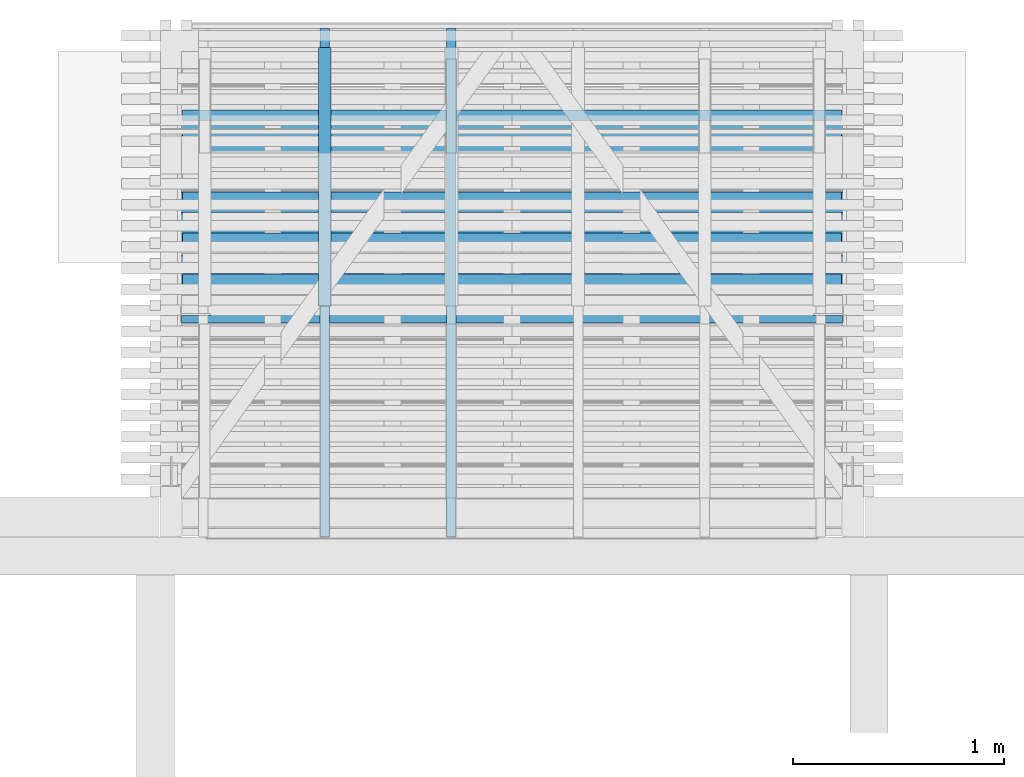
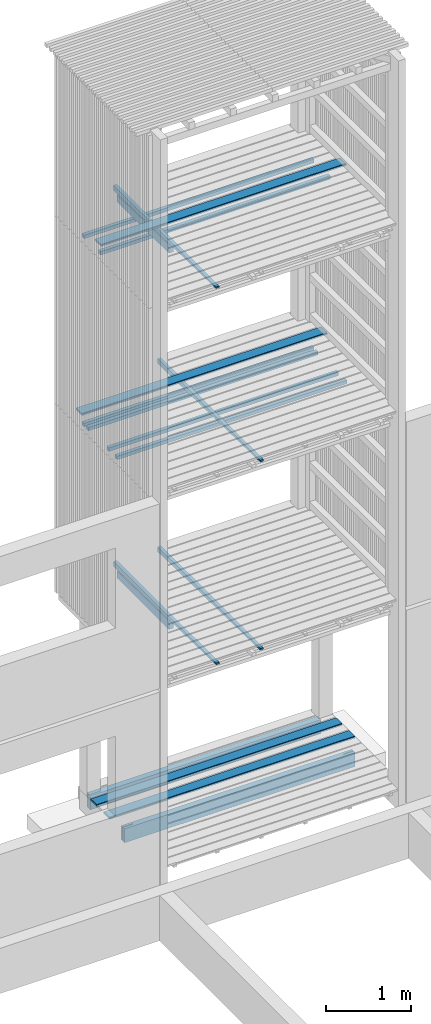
# One storey, part 48 of 182: 18 beams.
"""IFC2X3 building model written with IfcOpenShell, lengths in metres."""

from ifc_helpers import new_model, si_unit, frame, origin, place, context, project, spatial, faceted_brep, element, save


model = new_model("IFC2X3")

# Units and contexts
model_context = context("Model", 3, precision=1e-06, world=origin())
ifc_project = project(units=[si_unit("LENGTHUNIT", "METRE"), si_unit("PLANEANGLEUNIT", "RADIAN")], contexts=[model_context])

# Site, building, storey
site = spatial("IfcSite", under=ifc_project, CompositionType="ELEMENT")
building = spatial("IfcBuilding", under=site, CompositionType="ELEMENT")
storey = spatial("IfcBuildingStorey", under=building, Name="vs", CompositionType="ELEMENT", Elevation=-0.85)

# Beams
placement = place(None, origin())
beam_1_placement = place(placement, frame((16.549197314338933, 12.080494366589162, 7.86739999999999), z_axis=(0.0, 0.0, 1.0), x_axis=(-1.0, 0.0, 0.0)))
element("IfcBeam", 1, at=beam_1_placement, inside=storey, Name="Bardage", context=model_context, shape_type="Brep", body=[
    faceted_brep([(3.120000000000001, 0.024999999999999, -0.024999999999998), (3.120000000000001, 0.024999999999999, 0.025000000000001), (3.120000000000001, -0.024999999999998, 0.025000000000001), (3.120000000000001, -0.024999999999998, -0.024999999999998), (-3e-15, -0.025000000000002, -0.024999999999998), (-3e-15, -0.025000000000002, 0.025000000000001), (-3e-15, 0.024999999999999, 0.025000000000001), (-3e-15, 0.024999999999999, -0.024999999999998), (-3e-15, 0.024999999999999, -0.024999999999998), (-3e-15, 0.024999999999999, 0.025000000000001), (3.120000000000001, 0.024999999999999, 0.025000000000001), (3.120000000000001, 0.024999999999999, -0.024999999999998), (-3e-15, 0.024999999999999, 0.025000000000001), (-3e-15, -0.025000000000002, 0.025000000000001), (3.120000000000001, -0.024999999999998, 0.025000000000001), (3.120000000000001, 0.024999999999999, 0.025000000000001), (-3e-15, -0.025000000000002, 0.025000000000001), (-3e-15, -0.025000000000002, -0.024999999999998), (3.120000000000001, -0.024999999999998, -0.024999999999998), (3.120000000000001, -0.024999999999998, 0.025000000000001), (-3e-15, -0.025000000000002, -0.024999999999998), (-3e-15, 0.024999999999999, -0.024999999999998), (3.120000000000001, 0.024999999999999, -0.024999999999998), (3.120000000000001, -0.024999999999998, -0.024999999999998)], [[[0, 1, 2, 3]], [[4, 5, 6, 7]], [[8, 9, 10, 11]], [[12, 13, 14, 15]], [[16, 17, 18, 19]], [[20, 21, 22, 23]]]),
])
beam_2_placement = place(placement, frame((16.55419731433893, 11.5250776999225, -0.143899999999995), z_axis=(0.0, 0.0, 1.0), x_axis=(-1.0, -2e-15, 0.0)))
element("IfcBeam", 2, at=beam_2_placement, inside=storey, Name="Sommier", context=model_context, shape_type="Brep", body=[
    faceted_brep([(0.137000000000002, -0.003999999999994, 0.1), (0.137000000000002, -0.003999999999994, -0.1), (1e-15, -0.003999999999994, -0.1), (1e-15, -0.003999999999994, 0.1), (0.137000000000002, 0.004000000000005, -0.1), (0.137000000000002, -0.003999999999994, -0.1), (0.137000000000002, -0.003999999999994, 0.1), (0.137000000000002, 0.004000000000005, 0.1), (0.137000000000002, 0.004000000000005, -0.1), (0.137000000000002, 0.004000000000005, 0.1), (1e-15, 0.004000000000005, 0.1), (1e-15, 0.004000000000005, -0.1), (1e-15, -0.003999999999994, 0.1), (1e-15, -0.003999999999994, -0.1), (1e-15, -0.039999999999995, -0.1), (1e-15, -0.039999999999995, 0.1), (1e-15, 0.040000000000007, 0.1), (1e-15, 0.040000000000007, -0.1), (1e-15, 0.004000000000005, -0.1), (1e-15, 0.004000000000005, 0.1), (3.129999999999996, 0.004000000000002, 0.1), (2.992999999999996, 0.004000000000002, 0.1), (2.992999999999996, 0.004000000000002, -0.1), (3.129999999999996, 0.004000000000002, -0.1), (2.992999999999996, -0.004000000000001, 0.1), (2.992999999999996, -0.004000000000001, -0.1), (2.992999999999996, 0.004000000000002, -0.1), (2.992999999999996, 0.004000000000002, 0.1), (3.129999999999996, -0.004000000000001, -0.1), (2.992999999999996, -0.004000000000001, -0.1), (2.992999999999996, -0.004000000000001, 0.1), (3.129999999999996, -0.004000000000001, 0.1), (3.129999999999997, 0.04, 0.1), (3.129999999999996, 0.004000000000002, 0.1), (3.129999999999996, 0.004000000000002, -0.1), (3.129999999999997, 0.04, -0.1), (3.129999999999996, -0.040000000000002, 0.1), (3.129999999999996, -0.040000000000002, -0.1), (3.129999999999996, -0.004000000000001, -0.1), (3.129999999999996, -0.004000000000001, 0.1), (1e-15, -0.039999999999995, -0.1), (1e-15, -0.003999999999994, -0.1), (0.137000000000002, -0.003999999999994, -0.1), (0.137000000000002, 0.004000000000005, -0.1), (1e-15, 0.004000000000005, -0.1), (1e-15, 0.040000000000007, -0.1), (3.129999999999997, 0.04, -0.1), (3.129999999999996, 0.004000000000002, -0.1), (2.992999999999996, 0.004000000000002, -0.1), (2.992999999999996, -0.004000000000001, -0.1), (3.129999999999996, -0.004000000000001, -0.1), (3.129999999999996, -0.040000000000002, -0.1), (2.992999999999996, 0.004000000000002, 0.1), (3.129999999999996, 0.004000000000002, 0.1), (3.129999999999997, 0.04, 0.1), (1e-15, 0.040000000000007, 0.1), (1e-15, 0.004000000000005, 0.1), (0.137000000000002, 0.004000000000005, 0.1), (0.137000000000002, -0.003999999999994, 0.1), (1e-15, -0.003999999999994, 0.1), (1e-15, -0.039999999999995, 0.1), (3.129999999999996, -0.040000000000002, 0.1), (3.129999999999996, -0.004000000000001, 0.1), (2.992999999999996, -0.004000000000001, 0.1), (1e-15, 0.040000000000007, 0.1), (3.129999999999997, 0.04, 0.1), (3.129999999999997, 0.04, -0.1), (1e-15, 0.040000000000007, -0.1), (1e-15, -0.039999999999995, -0.1), (3.129999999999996, -0.040000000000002, -0.1), (3.129999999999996, -0.040000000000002, 0.1), (1e-15, -0.039999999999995, 0.1)], [[[0, 1, 2, 3]], [[4, 5, 6, 7]], [[8, 9, 10, 11]], [[12, 13, 14, 15]], [[16, 17, 18, 19]], [[20, 21, 22, 23]], [[24, 25, 26, 27]], [[28, 29, 30, 31]], [[32, 33, 34, 35]], [[36, 37, 38, 39]], [[40, 41, 42, 43, 44, 45, 46, 47, 48, 49, 50, 51]], [[52, 53, 54, 55, 56, 57, 58, 59, 60, 61, 62, 63]], [[64, 65, 66, 67]], [[68, 69, 70, 71]]]),
])
beam_3_placement = place(placement, frame((16.549197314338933, 12.4688276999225, 7.86739999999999), z_axis=(0.0, 0.0, 1.0), x_axis=(-1.0, 0.0, 0.0)))
element("IfcBeam", 3, at=beam_3_placement, inside=storey, Name="Bardage", context=model_context, shape_type="Brep", body=[
    faceted_brep([(3.120000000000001, 0.025000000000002, -0.024999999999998), (3.120000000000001, 0.025000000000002, 0.025000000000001), (3.120000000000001, -0.024999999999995, 0.025000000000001), (3.120000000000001, -0.024999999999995, -0.024999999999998), (-3e-15, -0.024999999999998, -0.024999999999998), (-3e-15, -0.024999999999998, 0.025000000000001), (-3e-15, 0.025000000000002, 0.025000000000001), (-3e-15, 0.025000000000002, -0.024999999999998), (-3e-15, 0.025000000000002, -0.024999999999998), (-3e-15, 0.025000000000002, 0.025000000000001), (3.120000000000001, 0.025000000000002, 0.025000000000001), (3.120000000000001, 0.025000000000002, -0.024999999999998), (-3e-15, 0.025000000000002, 0.025000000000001), (-3e-15, -0.024999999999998, 0.025000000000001), (3.120000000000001, -0.024999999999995, 0.025000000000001), (3.120000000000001, 0.025000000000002, 0.025000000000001), (-3e-15, -0.024999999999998, 0.025000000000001), (-3e-15, -0.024999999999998, -0.024999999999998), (3.120000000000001, -0.024999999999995, -0.024999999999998), (3.120000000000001, -0.024999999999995, 0.025000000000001), (-3e-15, -0.024999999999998, -0.024999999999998), (-3e-15, 0.025000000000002, -0.024999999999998), (3.120000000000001, 0.025000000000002, -0.024999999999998), (3.120000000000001, -0.024999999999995, -0.024999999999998)], [[[0, 1, 2, 3]], [[4, 5, 6, 7]], [[8, 9, 10, 11]], [[12, 13, 14, 15]], [[16, 17, 18, 19]], [[20, 21, 22, 23]]]),
])
beam_4_placement = place(placement, frame((16.549197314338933, 12.371744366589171, 5.167399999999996), z_axis=(0.0, 0.0, 1.0), x_axis=(-1.0, 0.0, 0.0)))
element("IfcBeam", 4, at=beam_4_placement, inside=storey, Name="Bardage", context=model_context, shape_type="Brep", body=[
    faceted_brep([(3.120000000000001, 0.025000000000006, 0.024999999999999), (3.120000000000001, -0.024999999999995, 0.024999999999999), (3.120000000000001, -0.024999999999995, -0.025), (3.120000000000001, 0.025000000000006, -0.025), (-3e-15, -0.024999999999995, 0.024999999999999), (-3e-15, 0.025000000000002, 0.024999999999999), (-3e-15, 0.025000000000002, -0.025), (-3e-15, -0.024999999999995, -0.025), (-3e-15, -0.024999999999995, -0.025), (-3e-15, 0.025000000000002, -0.025), (3.120000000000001, 0.025000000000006, -0.025), (3.120000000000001, -0.024999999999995, -0.025), (3.120000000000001, -0.024999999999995, -0.025), (3.120000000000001, -0.024999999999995, 0.024999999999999), (-3e-15, -0.024999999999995, 0.024999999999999), (-3e-15, -0.024999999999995, -0.025), (3.120000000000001, 0.025000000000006, 0.024999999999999), (3.120000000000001, 0.025000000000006, -0.025), (-3e-15, 0.025000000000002, -0.025), (-3e-15, 0.025000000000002, 0.024999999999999), (3.120000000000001, -0.024999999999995, 0.024999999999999), (3.120000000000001, 0.025000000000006, 0.024999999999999), (-3e-15, 0.025000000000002, 0.024999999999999), (-3e-15, -0.024999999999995, 0.024999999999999)], [[[0, 1, 2, 3]], [[4, 5, 6, 7]], [[8, 9, 10, 11]], [[12, 13, 14, 15]], [[16, 17, 18, 19]], [[20, 21, 22, 23]]]),
])
beam_5_placement = place(placement, frame((16.654197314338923, 12.034577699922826, 0.033500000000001), z_axis=(0.0, 0.0, 1.0), x_axis=(-1.0, -1e-15, 0.0)))
element("IfcBeam", 5, at=beam_5_placement, inside=storey, Name="Caillebotis", context=model_context, shape_type="Brep", body=[
    faceted_brep([(3.329999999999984, -0.067499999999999, 0.0135), (3.329999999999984, -0.072500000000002, 0.008500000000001), (3.329999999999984, -0.072500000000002, -0.013500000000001), (3.329999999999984, 0.072500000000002, -0.013500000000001), (3.329999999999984, 0.072500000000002, 0.0085), (3.329999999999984, 0.067499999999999, 0.0135), (0.0, 0.067500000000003, 0.0135), (0.0, 0.072500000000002, 0.0085), (0.0, 0.072500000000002, -0.013500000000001), (0.0, -0.072499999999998, -0.013500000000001), (0.0, -0.072499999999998, 0.008500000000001), (0.0, -0.067499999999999, 0.0135), (3.329999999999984, -0.072500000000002, -0.013500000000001), (3.329999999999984, -0.072500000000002, 0.008500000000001), (0.0, -0.072499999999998, 0.008500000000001), (0.0, -0.072499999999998, -0.013500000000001), (3.329999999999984, 0.072500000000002, -0.013500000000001), (3.329999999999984, -0.072500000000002, -0.013500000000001), (0.0, -0.072499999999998, -0.013500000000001), (0.0, 0.072500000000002, -0.013500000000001), (3.329999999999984, 0.072500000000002, 0.0085), (3.329999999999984, 0.072500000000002, -0.013500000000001), (0.0, 0.072500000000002, -0.013500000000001), (0.0, 0.072500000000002, 0.0085), (3.329999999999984, 0.067499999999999, 0.0135), (3.329999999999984, 0.072500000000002, 0.0085), (0.0, 0.072500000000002, 0.0085), (0.0, 0.067500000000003, 0.0135), (3.329999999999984, -0.067499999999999, 0.0135), (3.329999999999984, 0.067499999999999, 0.0135), (0.0, 0.067500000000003, 0.0135), (0.0, -0.067499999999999, 0.0135), (0.0, -0.072499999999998, 0.008500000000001), (3.329999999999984, -0.072500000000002, 0.008500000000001), (3.329999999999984, -0.067499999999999, 0.0135), (0.0, -0.067499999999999, 0.0135)], [[[0, 1, 2, 3, 4, 5]], [[6, 7, 8, 9, 10, 11]], [[12, 13, 14, 15]], [[16, 17, 18, 19]], [[20, 21, 22, 23]], [[24, 25, 26, 27]], [[28, 29, 30, 31]], [[32, 33, 34, 35]]]),
])
beam_6_placement = place(placement, frame((16.654197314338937, 11.934577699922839, 8.13349999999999), z_axis=(0.0, 0.0, 1.0), x_axis=(-1.0, -8e-15, 0.0)))
element("IfcBeam", 6, at=beam_6_placement, inside=storey, Name="Caillebotis", context=model_context, shape_type="Brep", body=[
    faceted_brep([(3.329999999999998, -0.072500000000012, -0.013500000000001), (3.329999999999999, 0.072499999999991, -0.013500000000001), (3.329999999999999, 0.072499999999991, 0.008499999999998), (3.329999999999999, 0.067499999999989, 0.013499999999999), (3.329999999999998, -0.067500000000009, 0.013499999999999), (3.329999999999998, -0.072500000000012, 0.0085), (-1e-15, -0.072499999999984, 0.0085), (-1e-15, -0.067499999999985, 0.013499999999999), (1e-15, 0.067500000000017, 0.013499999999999), (1e-15, 0.072500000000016, 0.008499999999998), (1e-15, 0.072500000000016, -0.013500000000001), (-1e-15, -0.072499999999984, -0.013500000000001), (3.329999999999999, 0.072499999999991, 0.008499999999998), (3.329999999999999, 0.072499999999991, -0.013500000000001), (1e-15, 0.072500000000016, -0.013500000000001), (1e-15, 0.072500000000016, 0.008499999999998), (3.329999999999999, 0.067499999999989, 0.013499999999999), (3.329999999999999, 0.072499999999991, 0.008499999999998), (1e-15, 0.072500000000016, 0.008499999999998), (1e-15, 0.067500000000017, 0.013499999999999), (3.329999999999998, -0.067500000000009, 0.013499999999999), (3.329999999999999, 0.067499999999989, 0.013499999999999), (1e-15, 0.067500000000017, 0.013499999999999), (-1e-15, -0.067499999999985, 0.013499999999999), (3.329999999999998, -0.072500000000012, 0.0085), (3.329999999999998, -0.067500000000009, 0.013499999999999), (-1e-15, -0.067499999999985, 0.013499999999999), (-1e-15, -0.072499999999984, 0.0085), (3.329999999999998, -0.072500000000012, -0.013500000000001), (3.329999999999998, -0.072500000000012, 0.0085), (-1e-15, -0.072499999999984, 0.0085), (-1e-15, -0.072499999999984, -0.013500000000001), (1e-15, 0.072500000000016, -0.013500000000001), (3.329999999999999, 0.072499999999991, -0.013500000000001), (3.329999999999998, -0.072500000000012, -0.013500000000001), (-1e-15, -0.072499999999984, -0.013500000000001)], [[[0, 1, 2, 3, 4, 5]], [[6, 7, 8, 9, 10, 11]], [[12, 13, 14, 15]], [[16, 17, 18, 19]], [[20, 21, 22, 23]], [[24, 25, 26, 27]], [[28, 29, 30, 31]], [[32, 33, 34, 35]]]),
])
beam_7_placement = place(placement, frame((14.102197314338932, 10.4700776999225, 2.684400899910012), z_axis=(0.0, 0.0, 1.0), x_axis=(0.0, 1.0, 0.0)))
element("IfcBeam", 7, at=beam_7_placement, inside=storey, Name="Calage", context=model_context, shape_type="Brep", body=[
    faceted_brep([(2.41000000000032, -0.022500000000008, -0.035599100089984), (0.0, -0.022500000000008, 0.012600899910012), (0.0, 0.022499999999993, 0.012600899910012), (2.41000000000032, 0.022499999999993, -0.035599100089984), (0.0, 0.022499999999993, 0.035599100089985), (0.0, 0.022499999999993, 0.012600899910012), (0.0, -0.022500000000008, 0.012600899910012), (0.0, -0.022500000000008, 0.035599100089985), (2.41000000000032, 0.022499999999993, -0.035599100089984), (0.0, 0.022499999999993, 0.012600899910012), (0.0, 0.022499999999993, 0.035599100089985), (2.41000000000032, 0.022499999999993, 0.035599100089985), (2.41000000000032, -0.022500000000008, 0.035599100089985), (0.0, -0.022500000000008, 0.035599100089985), (0.0, -0.022500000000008, 0.012600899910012), (2.41000000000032, -0.022500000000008, -0.035599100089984), (2.41000000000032, 0.022499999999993, 0.035599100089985), (0.0, 0.022499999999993, 0.035599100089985), (0.0, -0.022500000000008, 0.035599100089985), (2.41000000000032, -0.022500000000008, 0.035599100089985), (2.41000000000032, 0.022499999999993, -0.035599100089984), (2.41000000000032, 0.022499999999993, 0.035599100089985), (2.41000000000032, -0.022500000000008, 0.035599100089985), (2.41000000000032, -0.022500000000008, -0.035599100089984)], [[[0, 1, 2, 3]], [[4, 5, 6, 7]], [[8, 9, 10, 11]], [[12, 13, 14, 15]], [[16, 17, 18, 19]], [[20, 21, 22, 23]]]),
])
beam_8_placement = place(placement, frame((14.102197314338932, 11.565077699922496, 8.00424999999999), z_axis=(0.0, 0.0, 1.0), x_axis=(0.0, 1.0, 0.0)))
element("IfcBeam", 8, at=beam_8_placement, inside=storey, Name="Solive", context=model_context, shape_type="Brep", body=[
    faceted_brep([(0.0, -0.030000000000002, -0.061849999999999), (1.225000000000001, -0.030000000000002, -0.061849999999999), (1.225000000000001, -0.030000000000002, 0.037349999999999), (0.0, -0.030000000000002, 0.061849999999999), (0.0, 0.030000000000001, 0.061850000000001), (0.0, 0.030000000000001, -0.061849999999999), (0.0, -0.030000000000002, -0.061849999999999), (0.0, -0.030000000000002, 0.061849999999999), (0.0, -0.030000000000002, -0.061849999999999), (0.0, 0.030000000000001, -0.061849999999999), (1.225000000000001, 0.030000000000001, -0.061849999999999), (1.225000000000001, -0.030000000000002, -0.061849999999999), (1.225000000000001, 0.030000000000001, -0.061849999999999), (0.0, 0.030000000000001, -0.061849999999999), (0.0, 0.030000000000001, 0.061850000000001), (1.225000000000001, 0.030000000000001, 0.037349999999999), (1.225000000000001, -0.030000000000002, 0.037349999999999), (1.225000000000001, -0.030000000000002, -0.061849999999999), (1.225000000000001, 0.030000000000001, -0.061849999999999), (1.225000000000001, 0.030000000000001, 0.037349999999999), (0.0, -0.030000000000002, 0.061849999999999), (1.225000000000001, -0.030000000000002, 0.037349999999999), (1.225000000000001, 0.030000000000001, 0.037349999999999), (0.0, 0.030000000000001, 0.061850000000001)], [[[0, 1, 2, 3]], [[4, 5, 6, 7]], [[8, 9, 10, 11]], [[12, 13, 14, 15]], [[16, 17, 18, 19]], [[20, 21, 22, 23]]]),
])
beam_9_placement = place(placement, frame((16.549197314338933, 11.886327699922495, 5.167399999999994), z_axis=(0.0, 0.0, 1.0), x_axis=(-1.0, 0.0, 0.0)))
element("IfcBeam", 9, at=beam_9_placement, inside=storey, Name="Bardage", context=model_context, shape_type="Brep", body=[
    faceted_brep([(3.120000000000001, 0.024999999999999, -0.024999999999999), (3.120000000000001, 0.024999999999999, 0.025), (3.120000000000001, -0.024999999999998, 0.025), (3.120000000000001, -0.024999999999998, -0.024999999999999), (-3e-15, -0.025000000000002, -0.024999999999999), (-3e-15, -0.025000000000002, 0.025), (-3e-15, 0.024999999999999, 0.025), (-3e-15, 0.024999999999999, -0.024999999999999), (-3e-15, 0.024999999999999, -0.024999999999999), (-3e-15, 0.024999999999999, 0.025), (3.120000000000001, 0.024999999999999, 0.025), (3.120000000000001, 0.024999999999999, -0.024999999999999), (-3e-15, 0.024999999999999, 0.025), (-3e-15, -0.025000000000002, 0.025), (3.120000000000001, -0.024999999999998, 0.025), (3.120000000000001, 0.024999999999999, 0.025), (-3e-15, -0.025000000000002, 0.025), (-3e-15, -0.025000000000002, -0.024999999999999), (3.120000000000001, -0.024999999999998, -0.024999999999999), (3.120000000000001, -0.024999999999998, 0.025), (-3e-15, -0.025000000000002, -0.024999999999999), (-3e-15, 0.024999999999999, -0.024999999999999), (3.120000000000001, 0.024999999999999, -0.024999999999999), (3.120000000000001, -0.024999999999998, -0.024999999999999)], [[[0, 1, 2, 3]], [[4, 5, 6, 7]], [[8, 9, 10, 11]], [[12, 13, 14, 15]], [[16, 17, 18, 19]], [[20, 21, 22, 23]]]),
])
beam_10_placement = place(placement, frame((14.102197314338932, 11.565077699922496, 2.604249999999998), z_axis=(0.0, 0.0, 1.0), x_axis=(0.0, 1.0, 0.0)))
element("IfcBeam", 10, at=beam_10_placement, inside=storey, Name="Solive", context=model_context, shape_type="Brep", body=[
    faceted_brep([(0.0, -0.030000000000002, -0.06185), (1.225000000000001, -0.030000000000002, -0.06185), (1.225000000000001, -0.030000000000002, 0.037349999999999), (0.0, -0.030000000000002, 0.06185), (0.0, 0.030000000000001, 0.06185), (0.0, 0.030000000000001, -0.06185), (0.0, -0.030000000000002, -0.06185), (0.0, -0.030000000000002, 0.06185), (0.0, -0.030000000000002, -0.06185), (0.0, 0.030000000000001, -0.06185), (1.225000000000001, 0.030000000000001, -0.06185), (1.225000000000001, -0.030000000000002, -0.06185), (1.225000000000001, 0.030000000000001, -0.06185), (0.0, 0.030000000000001, -0.06185), (0.0, 0.030000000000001, 0.06185), (1.225000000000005, 0.030000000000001, 0.037349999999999), (1.225000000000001, -0.030000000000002, 0.037349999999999), (1.225000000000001, -0.030000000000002, -0.06185), (1.225000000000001, 0.030000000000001, -0.06185), (1.225000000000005, 0.030000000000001, 0.037349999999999), (0.0, -0.030000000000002, 0.06185), (1.225000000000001, -0.030000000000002, 0.037349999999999), (1.225000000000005, 0.030000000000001, 0.037349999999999), (0.0, 0.030000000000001, 0.06185)], [[[0, 1, 2, 3]], [[4, 5, 6, 7]], [[8, 9, 10, 11]], [[12, 13, 14, 15]], [[16, 17, 18, 19]], [[20, 21, 22, 23]]]),
])
beam_11_placement = place(placement, frame((16.549197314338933, 11.692161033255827, 5.167399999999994), z_axis=(0.0, 0.0, 1.0), x_axis=(-1.0, 0.0, 0.0)))
element("IfcBeam", 11, at=beam_11_placement, inside=storey, Name="Bardage", context=model_context, shape_type="Brep", body=[
    faceted_brep([(3.120000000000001, 0.024999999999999, -0.025), (3.120000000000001, 0.024999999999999, 0.025), (3.120000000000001, -0.024999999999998, 0.025), (3.120000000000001, -0.024999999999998, -0.025), (-3e-15, -0.025000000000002, -0.025), (-3e-15, -0.025000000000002, 0.025), (-3e-15, 0.024999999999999, 0.025), (-3e-15, 0.024999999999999, -0.025), (-3e-15, 0.024999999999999, -0.025), (-3e-15, 0.024999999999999, 0.025), (3.120000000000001, 0.024999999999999, 0.025), (3.120000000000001, 0.024999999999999, -0.025), (-3e-15, 0.024999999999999, 0.025), (-3e-15, -0.025000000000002, 0.025), (3.120000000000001, -0.024999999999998, 0.025), (3.120000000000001, 0.024999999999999, 0.025), (-3e-15, -0.025000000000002, 0.025), (-3e-15, -0.025000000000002, -0.025), (3.120000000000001, -0.024999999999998, -0.025), (3.120000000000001, -0.024999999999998, 0.025), (-3e-15, -0.025000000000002, -0.025), (-3e-15, 0.024999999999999, -0.025), (3.120000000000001, 0.024999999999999, -0.025), (3.120000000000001, -0.024999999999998, -0.025)], [[[0, 1, 2, 3]], [[4, 5, 6, 7]], [[8, 9, 10, 11]], [[12, 13, 14, 15]], [[16, 17, 18, 19]], [[20, 21, 22, 23]]]),
])
beam_12_placement = place(placement, frame((16.55419731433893, 12.330077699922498, -0.159999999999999), z_axis=(0.0, 0.0, 1.0), x_axis=(-1.0, 0.0, 0.0)))
element("IfcBeam", 12, at=beam_12_placement, inside=storey, Name="Sommier", context=model_context, shape_type="Brep", body=[
    faceted_brep([(3.129999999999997, 0.040000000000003, -0.1), (3.129999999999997, -0.039999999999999, -0.1), (1e-15, -0.040000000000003, -0.1), (1e-15, 0.039999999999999, -0.1), (3.129999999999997, 0.040000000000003, 0.1), (3.129999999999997, 0.040000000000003, -0.1), (1e-15, 0.039999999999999, -0.1), (1e-15, 0.039999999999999, 0.1), (3.129999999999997, 0.040000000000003, -0.1), (3.129999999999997, 0.040000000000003, 0.1), (3.129999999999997, -0.039999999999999, 0.1), (3.129999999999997, -0.039999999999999, -0.1), (3.129999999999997, -0.039999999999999, 0.1), (3.129999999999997, 0.040000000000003, 0.1), (1e-15, 0.039999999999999, 0.1), (1e-15, -0.040000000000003, 0.1), (1e-15, -0.040000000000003, -0.1), (3.129999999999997, -0.039999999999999, -0.1), (3.129999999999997, -0.039999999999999, 0.1), (1e-15, -0.040000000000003, 0.1), (1e-15, 0.039999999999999, -0.1), (1e-15, -0.040000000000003, -0.1), (1e-15, -0.040000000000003, 0.1), (1e-15, 0.039999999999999, 0.1)], [[[0, 1, 2, 3]], [[4, 5, 6, 7]], [[8, 9, 10, 11]], [[12, 13, 14, 15]], [[16, 17, 18, 19]], [[20, 21, 22, 23]]]),
])
beam_13_placement = place(placement, frame((16.549197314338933, 12.4688276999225, 5.167399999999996), z_axis=(0.0, 0.0, 1.0), x_axis=(-1.0, 0.0, 0.0)))
element("IfcBeam", 13, at=beam_13_placement, inside=storey, Name="Bardage", context=model_context, shape_type="Brep", body=[
    faceted_brep([(3.120000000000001, 0.025000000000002, -0.025), (3.120000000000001, 0.025000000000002, 0.024999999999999), (3.120000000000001, -0.024999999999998, 0.024999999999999), (3.120000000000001, -0.024999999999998, -0.025), (-3e-15, -0.024999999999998, -0.025), (-3e-15, -0.024999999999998, 0.024999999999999), (-3e-15, 0.025000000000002, 0.024999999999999), (-3e-15, 0.025000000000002, -0.025), (-3e-15, 0.025000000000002, -0.025), (-3e-15, 0.025000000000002, 0.024999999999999), (3.120000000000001, 0.025000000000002, 0.024999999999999), (3.120000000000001, 0.025000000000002, -0.025), (-3e-15, 0.025000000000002, 0.024999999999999), (-3e-15, -0.024999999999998, 0.024999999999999), (3.120000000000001, -0.024999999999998, 0.024999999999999), (3.120000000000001, 0.025000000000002, 0.024999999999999), (-3e-15, -0.024999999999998, 0.024999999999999), (-3e-15, -0.024999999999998, -0.025), (3.120000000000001, -0.024999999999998, -0.025), (3.120000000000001, -0.024999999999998, 0.024999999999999), (-3e-15, -0.024999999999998, -0.025), (-3e-15, 0.025000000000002, -0.025), (3.120000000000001, 0.025000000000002, -0.025), (3.120000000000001, -0.024999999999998, -0.025)], [[[0, 1, 2, 3]], [[4, 5, 6, 7]], [[8, 9, 10, 11]], [[12, 13, 14, 15]], [[16, 17, 18, 19]], [[20, 21, 22, 23]]]),
])
beam_14_placement = place(placement, frame((16.654197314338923, 11.73457769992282, 0.033500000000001), z_axis=(0.0, 0.0, 1.0), x_axis=(-1.0, 0.0, 0.0)))
element("IfcBeam", 14, at=beam_14_placement, inside=storey, Name="Caillebotis", context=model_context, shape_type="Brep", body=[
    faceted_brep([(3.329999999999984, -0.067500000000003, 0.0135), (3.329999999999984, -0.072499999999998, 0.008500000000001), (3.329999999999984, -0.072499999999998, -0.013500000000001), (3.329999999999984, 0.072499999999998, -0.013500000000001), (3.329999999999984, 0.072499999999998, 0.0085), (3.329999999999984, 0.067500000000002, 0.0135), (0.0, 0.067499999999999, 0.0135), (0.0, 0.072499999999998, 0.0085), (0.0, 0.072499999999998, -0.013500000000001), (0.0, -0.072500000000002, -0.013500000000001), (0.0, -0.072500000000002, 0.008500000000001), (0.0, -0.067500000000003, 0.0135), (3.329999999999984, -0.072499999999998, -0.013500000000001), (3.329999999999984, -0.072499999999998, 0.008500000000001), (0.0, -0.072500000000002, 0.008500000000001), (0.0, -0.072500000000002, -0.013500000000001), (3.329999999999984, 0.072499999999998, -0.013500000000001), (3.329999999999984, -0.072499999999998, -0.013500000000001), (0.0, -0.072500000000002, -0.013500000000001), (0.0, 0.072499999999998, -0.013500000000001), (3.329999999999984, 0.072499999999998, 0.0085), (3.329999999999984, 0.072499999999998, -0.013500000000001), (0.0, 0.072499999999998, -0.013500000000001), (0.0, 0.072499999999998, 0.0085), (3.329999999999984, 0.067500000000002, 0.0135), (3.329999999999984, 0.072499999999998, 0.0085), (0.0, 0.072499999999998, 0.0085), (0.0, 0.067499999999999, 0.0135), (3.329999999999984, -0.067500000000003, 0.0135), (3.329999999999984, 0.067500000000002, 0.0135), (0.0, 0.067499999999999, 0.0135), (0.0, -0.067500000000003, 0.0135), (0.0, -0.072500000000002, 0.008500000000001), (3.329999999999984, -0.072499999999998, 0.008500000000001), (3.329999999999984, -0.067500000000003, 0.0135), (0.0, -0.067500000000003, 0.0135)], [[[0, 1, 2, 3, 4, 5]], [[6, 7, 8, 9, 10, 11]], [[12, 13, 14, 15]], [[16, 17, 18, 19]], [[20, 21, 22, 23]], [[24, 25, 26, 27]], [[28, 29, 30, 31]], [[32, 33, 34, 35]]]),
])
beam_15_placement = place(placement, frame((14.102197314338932, 10.4700776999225, 8.084400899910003), z_axis=(0.0, 0.0, 1.0), x_axis=(0.0, 1.0, 0.0)))
element("IfcBeam", 15, at=beam_15_placement, inside=storey, Name="Calage", context=model_context, shape_type="Brep", body=[
    faceted_brep([(2.41000000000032, -0.022500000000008, -0.035599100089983), (0.0, -0.022500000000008, 0.012600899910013), (0.0, 0.022499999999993, 0.012600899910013), (2.41000000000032, 0.022499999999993, -0.035599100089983), (0.0, 0.022499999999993, 0.035599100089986), (0.0, 0.022499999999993, 0.012600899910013), (0.0, -0.022500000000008, 0.012600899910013), (0.0, -0.022500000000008, 0.035599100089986), (2.41000000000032, 0.022499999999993, -0.035599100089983), (0.0, 0.022499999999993, 0.012600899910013), (0.0, 0.022499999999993, 0.035599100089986), (2.41000000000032, 0.022499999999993, 0.035599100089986), (2.41000000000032, -0.022500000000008, 0.035599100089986), (0.0, -0.022500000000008, 0.035599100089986), (0.0, -0.022500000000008, 0.012600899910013), (2.41000000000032, -0.022500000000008, -0.035599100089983), (2.41000000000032, 0.022499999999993, 0.035599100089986), (0.0, 0.022499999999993, 0.035599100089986), (0.0, -0.022500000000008, 0.035599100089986), (2.41000000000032, -0.022500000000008, 0.035599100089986), (2.41000000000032, 0.022499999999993, -0.035599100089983), (2.41000000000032, 0.022499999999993, 0.035599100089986), (2.41000000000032, -0.022500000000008, 0.035599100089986), (2.41000000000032, -0.022500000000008, -0.035599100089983)], [[[0, 1, 2, 3]], [[4, 5, 6, 7]], [[8, 9, 10, 11]], [[12, 13, 14, 15]], [[16, 17, 18, 19]], [[20, 21, 22, 23]]]),
])
beam_16_placement = place(placement, frame((14.70219731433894, 10.4700776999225, 2.684400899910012), z_axis=(0.0, 0.0, 1.0), x_axis=(0.0, 1.0, 0.0)))
element("IfcBeam", 16, at=beam_16_placement, inside=storey, Name="Calage", context=model_context, shape_type="Brep", body=[
    faceted_brep([(2.410000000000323, -0.022499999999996, -0.035599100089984), (0.0, -0.022499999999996, 0.012600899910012), (0.0, 0.022500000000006, 0.012600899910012), (2.410000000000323, 0.022500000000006, -0.035599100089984), (0.0, 0.022500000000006, 0.035599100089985), (0.0, 0.022500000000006, 0.012600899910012), (0.0, -0.022499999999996, 0.012600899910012), (0.0, -0.022499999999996, 0.035599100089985), (2.410000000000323, 0.022500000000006, -0.035599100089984), (0.0, 0.022500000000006, 0.012600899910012), (0.0, 0.022500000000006, 0.035599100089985), (2.410000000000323, 0.022500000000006, 0.035599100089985), (2.410000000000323, -0.022499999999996, 0.035599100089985), (0.0, -0.022499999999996, 0.035599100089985), (0.0, -0.022499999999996, 0.012600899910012), (2.410000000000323, -0.022499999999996, -0.035599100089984), (2.410000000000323, 0.022500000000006, 0.035599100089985), (0.0, 0.022500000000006, 0.035599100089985), (0.0, -0.022499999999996, 0.035599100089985), (2.410000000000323, -0.022499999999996, 0.035599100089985), (2.410000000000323, 0.022500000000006, -0.035599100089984), (2.410000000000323, 0.022500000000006, 0.035599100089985), (2.410000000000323, -0.022499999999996, 0.035599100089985), (2.410000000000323, -0.022499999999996, -0.035599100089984)], [[[0, 1, 2, 3]], [[4, 5, 6, 7]], [[8, 9, 10, 11]], [[12, 13, 14, 15]], [[16, 17, 18, 19]], [[20, 21, 22, 23]]]),
])
beam_17_placement = place(placement, frame((16.654197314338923, 12.384577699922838, 5.433499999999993), z_axis=(0.0, 0.0, 1.0), x_axis=(-1.0, -1e-14, 0.0)))
element("IfcBeam", 17, at=beam_17_placement, inside=storey, Name="Caillebotis", context=model_context, shape_type="Brep", body=[
    faceted_brep([(3.329999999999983, -0.072500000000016, -0.0135), (3.329999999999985, 0.072499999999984, -0.0135), (3.329999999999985, 0.072499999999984, 0.0085), (3.329999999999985, 0.067499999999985, 0.0135), (3.329999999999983, -0.067500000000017, 0.0135), (3.329999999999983, -0.072500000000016, 0.008500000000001), (-1.5e-14, -0.072499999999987, 0.008500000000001), (-1.5e-14, -0.067499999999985, 0.0135), (-1.4e-14, 0.067500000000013, 0.0135), (-1.4e-14, 0.072500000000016, 0.0085), (-1.4e-14, 0.072500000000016, -0.0135), (-1.5e-14, -0.072499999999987, -0.0135), (3.329999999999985, 0.072499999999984, 0.0085), (3.329999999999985, 0.072499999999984, -0.0135), (-1.4e-14, 0.072500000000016, -0.0135), (-1.4e-14, 0.072500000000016, 0.0085), (3.329999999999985, 0.067499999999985, 0.0135), (3.329999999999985, 0.072499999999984, 0.0085), (-1.4e-14, 0.072500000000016, 0.0085), (-1.4e-14, 0.067500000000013, 0.0135), (3.329999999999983, -0.067500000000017, 0.0135), (3.329999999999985, 0.067499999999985, 0.0135), (-1.4e-14, 0.067500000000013, 0.0135), (-1.5e-14, -0.067499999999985, 0.0135), (3.329999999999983, -0.072500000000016, 0.008500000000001), (3.329999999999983, -0.067500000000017, 0.0135), (-1.5e-14, -0.067499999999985, 0.0135), (-1.5e-14, -0.072499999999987, 0.008500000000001), (3.329999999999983, -0.072500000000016, -0.0135), (3.329999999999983, -0.072500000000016, 0.008500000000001), (-1.5e-14, -0.072499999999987, 0.008500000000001), (-1.5e-14, -0.072499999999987, -0.0135), (-1.4e-14, 0.072500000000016, -0.0135), (3.329999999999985, 0.072499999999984, -0.0135), (3.329999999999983, -0.072500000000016, -0.0135), (-1.5e-14, -0.072499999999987, -0.0135)], [[[0, 1, 2, 3, 4, 5]], [[6, 7, 8, 9, 10, 11]], [[12, 13, 14, 15]], [[16, 17, 18, 19]], [[20, 21, 22, 23]], [[24, 25, 26, 27]], [[28, 29, 30, 31]], [[32, 33, 34, 35]]]),
])
beam_18_placement = place(placement, frame((14.70219731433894, 10.4700776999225, 5.384400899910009), z_axis=(0.0, 0.0, 1.0), x_axis=(0.0, 1.0, 0.0)))
element("IfcBeam", 18, at=beam_18_placement, inside=storey, Name="Calage", context=model_context, shape_type="Brep", body=[
    faceted_brep([(2.410000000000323, -0.022499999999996, -0.035599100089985), (0.0, -0.022499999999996, 0.012600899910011), (0.0, 0.022500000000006, 0.012600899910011), (2.410000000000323, 0.022500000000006, -0.035599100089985), (0.0, 0.022500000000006, 0.035599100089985), (0.0, 0.022500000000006, 0.012600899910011), (0.0, -0.022499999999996, 0.012600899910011), (0.0, -0.022499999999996, 0.035599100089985), (2.410000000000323, 0.022500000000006, -0.035599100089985), (0.0, 0.022500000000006, 0.012600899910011), (0.0, 0.022500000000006, 0.035599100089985), (2.410000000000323, 0.022500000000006, 0.035599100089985), (2.410000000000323, -0.022499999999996, 0.035599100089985), (0.0, -0.022499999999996, 0.035599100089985), (0.0, -0.022499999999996, 0.012600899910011), (2.410000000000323, -0.022499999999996, -0.035599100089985), (2.410000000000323, 0.022500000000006, 0.035599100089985), (0.0, 0.022500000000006, 0.035599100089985), (0.0, -0.022499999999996, 0.035599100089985), (2.410000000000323, -0.022499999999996, 0.035599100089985), (2.410000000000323, 0.022500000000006, -0.035599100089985), (2.410000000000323, 0.022500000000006, 0.035599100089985), (2.410000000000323, -0.022499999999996, 0.035599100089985), (2.410000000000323, -0.022499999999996, -0.035599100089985)], [[[0, 1, 2, 3]], [[4, 5, 6, 7]], [[8, 9, 10, 11]], [[12, 13, 14, 15]], [[16, 17, 18, 19]], [[20, 21, 22, 23]]]),
])

save(model, "model.ifc")
